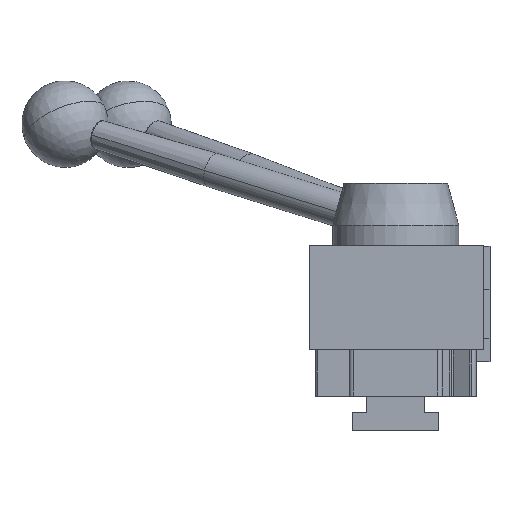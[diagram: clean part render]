
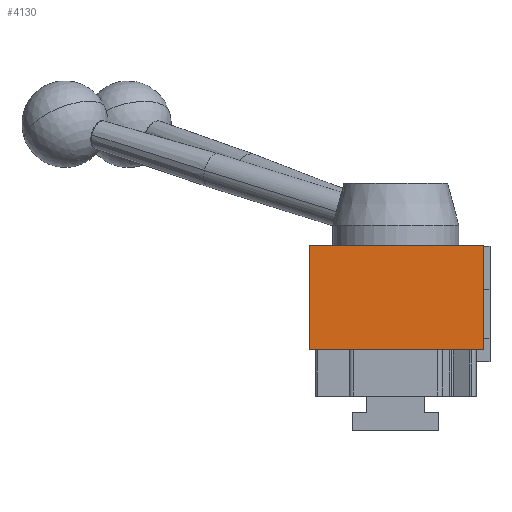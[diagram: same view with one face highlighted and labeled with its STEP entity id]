
A CAD part, top view. The second image highlights one B-rep face of the part: STEP entity #4130.
In plain terms, the highlighted planar face has unit normal (0, 0, 1).
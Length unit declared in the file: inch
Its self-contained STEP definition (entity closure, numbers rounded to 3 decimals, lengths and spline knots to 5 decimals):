
#16 = LINE ( 'NONE', #531, #1365 ) ;
#100 = EDGE_CURVE ( 'NONE', #1116, #3114, #5661, .T. ) ;
#431 = ORIENTED_EDGE ( 'NONE', *, *, #100, .T. ) ;
#531 = CARTESIAN_POINT ( 'NONE',  ( -3.75, -2.24, 0. ) ) ;
#928 = FACE_OUTER_BOUND ( 'NONE', #936, .T. ) ;
#936 = EDGE_LOOP ( 'NONE', ( #5837, #5076, #4179, #431 ) ) ;
#1116 = VERTEX_POINT ( 'NONE', #5897 ) ;
#1365 = VECTOR ( 'NONE', #5343, 39.37008 ) ;
#1388 = CARTESIAN_POINT ( 'NONE',  ( 0., -2.24, 0. ) ) ;
#1632 = LINE ( 'NONE', #4444, #3491 ) ;
#1644 = CARTESIAN_POINT ( 'NONE',  ( 0., 0., 0. ) ) ;
#2108 = EDGE_CURVE ( 'NONE', #3114, #3480, #1632, .T. ) ;
#2126 = VECTOR ( 'NONE', #2580, 39.37008 ) ;
#2426 = VECTOR ( 'NONE', #4300, 39.37008 ) ;
#2493 = EDGE_CURVE ( 'NONE', #3057, #1116, #16, .T. ) ;
#2580 = DIRECTION ( 'NONE',  ( -1., 0., 0. ) ) ;
#2865 = CARTESIAN_POINT ( 'NONE',  ( -3.75, 0., 0. ) ) ;
#3057 = VERTEX_POINT ( 'NONE', #2865 ) ;
#3114 = VERTEX_POINT ( 'NONE', #5586 ) ;
#3480 = VERTEX_POINT ( 'NONE', #4530 ) ;
#3491 = VECTOR ( 'NONE', #4966, 39.37008 ) ;
#3781 = DIRECTION ( 'NONE',  ( 0., 0., 1. ) ) ;
#4014 = LINE ( 'NONE', #1644, #2126 ) ;
#4130 = ADVANCED_FACE ( 'NONE', ( #928 ), #5171, .T. ) ;
#4179 = ORIENTED_EDGE ( 'NONE', *, *, #2493, .T. ) ;
#4300 = DIRECTION ( 'NONE',  ( 1., 0., 0. ) ) ;
#4444 = CARTESIAN_POINT ( 'NONE',  ( 0., -2.24, 0. ) ) ;
#4530 = CARTESIAN_POINT ( 'NONE',  ( 0., 0., 0. ) ) ;
#4643 = CARTESIAN_POINT ( 'NONE',  ( 0., -2.24, 0. ) ) ;
#4671 = DIRECTION ( 'NONE',  ( 1., 0., 0. ) ) ;
#4862 = AXIS2_PLACEMENT_3D ( 'NONE', #4643, #3781, #4671 ) ;
#4966 = DIRECTION ( 'NONE',  ( 0., 1., 0. ) ) ;
#5076 = ORIENTED_EDGE ( 'NONE', *, *, #5362, .T. ) ;
#5171 = PLANE ( 'NONE',  #4862 ) ;
#5343 = DIRECTION ( 'NONE',  ( 0., -1., 0. ) ) ;
#5362 = EDGE_CURVE ( 'NONE', #3480, #3057, #4014, .T. ) ;
#5586 = CARTESIAN_POINT ( 'NONE',  ( 0., -2.24, 0. ) ) ;
#5661 = LINE ( 'NONE', #1388, #2426 ) ;
#5837 = ORIENTED_EDGE ( 'NONE', *, *, #2108, .T. ) ;
#5897 = CARTESIAN_POINT ( 'NONE',  ( -3.75, -2.24, 0. ) ) ;
